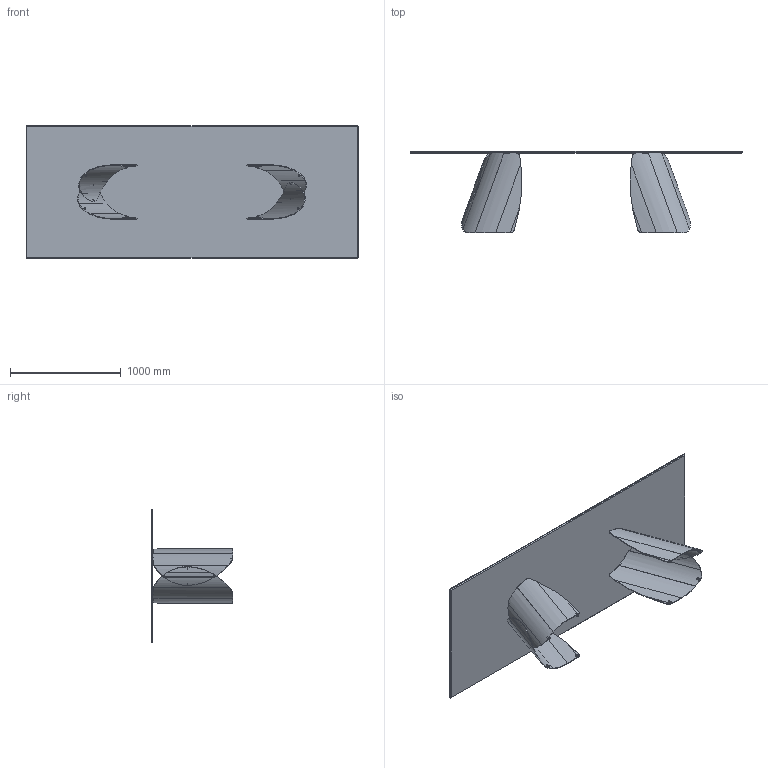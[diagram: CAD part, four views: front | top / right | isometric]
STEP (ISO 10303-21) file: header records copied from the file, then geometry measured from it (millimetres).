
FILE_DESCRIPTION (( 'STEP AP203' ), '1' );
FILE_NAME ('PA24C_Perla 300x120_Ceramic Rectangular.STEP', '2024-07-31T12:40:04', ( '' ), ( '' ), 'SwSTEP 2.0', 'SolidWorks 2022', '' );
FILE_SCHEMA (( 'CONFIG_CONTROL_DESIGN' ));
Length unit declared in the file: millimetre
Products named in the file (9): K2XCMXX-00-Piani Rettangolari in ceramica_3000 x 1200; PA24C_Perla 300x120_Ceramic Rectangular; profilo U 9x7 bombato_L = 60mm; PIEDINO D.15 x H.8_filetto M6x11; PER000000_03-00-PERLA BUSSOLA PER PIEDE; PER000000-00-PERLA BASE GREZZA; PER000000_01-00-PERLA LAMIERA ESTERNA; PER000000_02-00-PERLA LAMIERA INTERNA; COLLO BASE PERLA PER000000 CON FERRAMENTA
Assembly tree (16 placements, depth 4):
  PA24C_Perla 300x120_Ceramic Rectangular
    COLLO BASE PERLA PER000000 CON FERRAMENTA  x2
      PER000000-00-PERLA BASE GREZZA
        PER000000_01-00-PERLA LAMIERA ESTERNA
        PER000000_02-00-PERLA LAMIERA INTERNA
        PER000000_03-00-PERLA BUSSOLA PER PIEDE  x4
      PIEDINO D.15 x H.8_filetto M6x11
      profilo U 9x7 bombato_L = 60mm
    K2XCMXX-00-Piani Rettangolari in ceramica_3000 x 1200
Bounding box: 3000 x 737.5 x 1200 mm (x, y, z)
Volume: 67310646 mm3; surface area: 17892530.9 mm2
Topology: 34 solids, 34 shells, 490 faces, 1090 edges, 668 vertices
Faces by surface type: cylinder 164, bspline 130, plane 116, cone 48, torus 32
Entity records: 12664 total; most frequent: CARTESIAN_POINT 8269, ORIENTED_EDGE 774, DIRECTION 498, EDGE_CURVE 387, VERTEX_POINT 241, AXIS2_PLACEMENT_3D 180, EDGE_LOOP 174, ADVANCED_FACE 164
